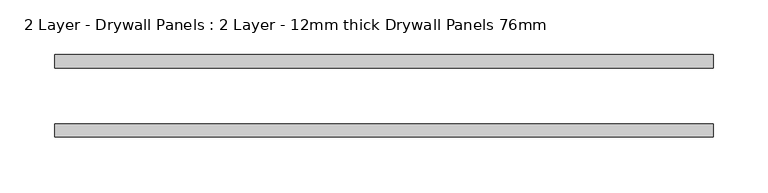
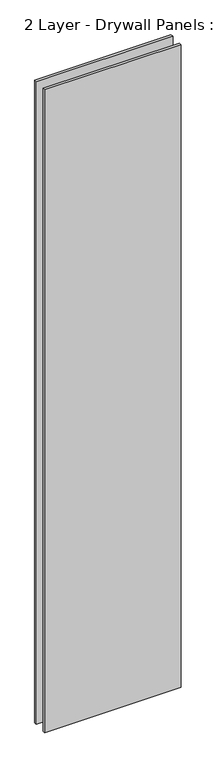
"""IFC4 building model written with IfcOpenShell, lengths in millimetres: plate geometry, 2 Layer - Drywall Panels : 2 Layer - 12mm thick Drywall Panels 76mm."""

from ifc_helpers import new_model, si_unit, origin, origin_with_axes, place, context, project, spatial, polyline, outline, extrude, source, transform, mapped, element, save


def plate_2_layer_drywall_panels_2_layer_12mm_thick_drywall_9ebc670e(model_context):
    return source(origin(), model_context, "Body", "SweptSolid", [
        extrude(outline(polyline([(299.2, 25.5), (-299.2, 25.5), (-299.2, 37.5), (299.2, 37.5), (299.2, 25.5)])), origin_with_axes(), (0.0, 0.0, 1.0), 2979.4),
        extrude(outline(polyline([(299.2, -25.5), (299.2, -37.5), (-299.2, -37.5), (-299.2, -25.5), (299.2, -25.5)])), origin_with_axes(), (0.0, 0.0, 1.0), 2979.4),
    ])


if __name__ == "__main__":
    model = new_model("IFC4")
    model_context = context("Model", 3, world=origin())
    ifc_project = project(units=[si_unit("LENGTHUNIT", "METRE", prefix="MILLI")], contexts=[model_context])
    site = spatial("IfcSite", under=ifc_project)
    building = spatial("IfcBuilding", under=site)
    placement = place(None, origin())
    plate_2_layer_drywall_panels_2_layer_12mm_thick_drywall_shape = plate_2_layer_drywall_panels_2_layer_12mm_thick_drywall_9ebc670e(model_context)
    element("IfcPlate", 1, ObjectType="2 Layer - Drywall Panels : 2 Layer - 12mm thick Drywall Panels 76mm", at=placement, inside=building, context=model_context, shape_type="MappedRepresentation", body=[
        mapped(plate_2_layer_drywall_panels_2_layer_12mm_thick_drywall_shape, transform((0.0, 0.0, 0.0), x_axis=(1.0, 0.0, 0.0), y_axis=(0.0, 1.0, 0.0), z_axis=(0.0, 0.0, 1.0))),
    ])
    save(model, "model.ifc")
